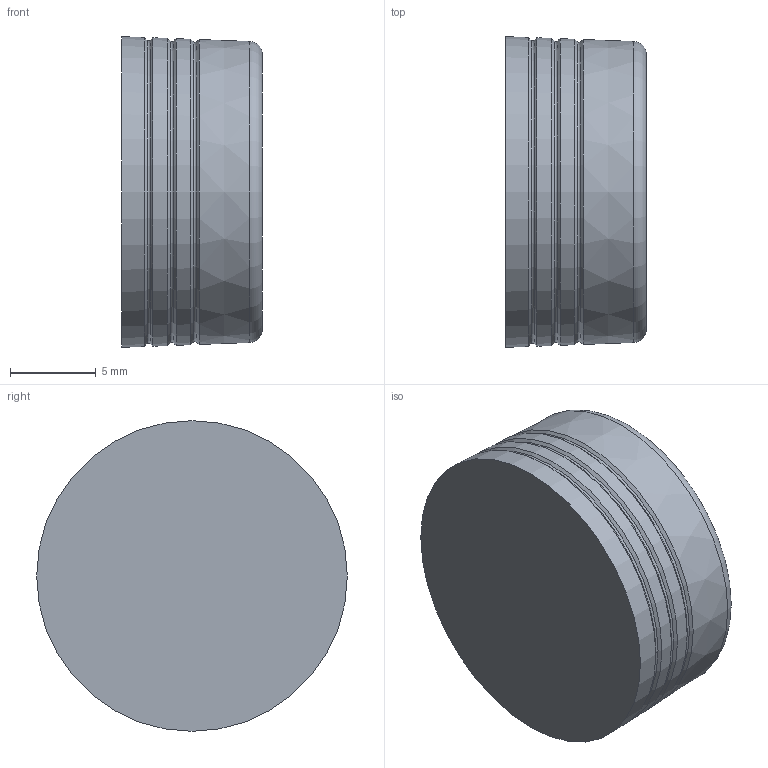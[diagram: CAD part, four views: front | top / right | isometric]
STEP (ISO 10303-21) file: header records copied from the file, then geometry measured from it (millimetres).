
FILE_DESCRIPTION(/* description */ ('LEE BETAPLUG, 18mm, SHORT, INDENT'),/* implementation_level */ '2;1');
FILE_NAME(/* name */ '\\ABSOLUTE\SmWork\Vernon\PLBA1804610S.stp',/* time_stamp */ '2021-03-23T15:14:10-04:00',/* author */ ('VernonJ'),/* organization */ (''),/* preprocessor_version */ 'ST-DEVELOPER v18',/* originating_system */ 'Autodesk Inventor 2020',/* authorisation */ '');
FILE_SCHEMA (('AUTOMOTIVE_DESIGN { 1 0 10303 214 3 1 1 }'));
Length unit declared in the file: millimetre
Products named in the file (1): PLBA1804610S
Bounding box: 8.19 x 18.07 x 18.07 mm (x, y, z)
Volume: 2014.5 mm3; surface area: 956.5 mm2
Topology: 1 solids, 1 shells, 16 faces, 51 edges, 37 vertices
Faces by surface type: cone 10, torus 4, plane 2
Entity records: 649 total; most frequent: DIRECTION 126, CARTESIAN_POINT 105, ORIENTED_EDGE 102, AXIS2_PLACEMENT_3D 58, EDGE_CURVE 51, CIRCLE 41, VERTEX_POINT 37, FACE_OUTER_BOUND 16
